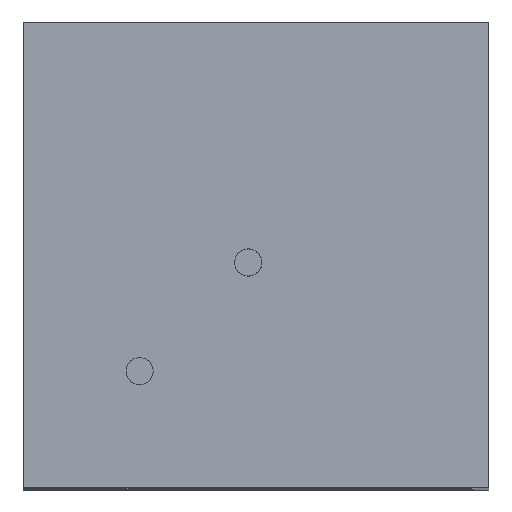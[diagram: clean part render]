
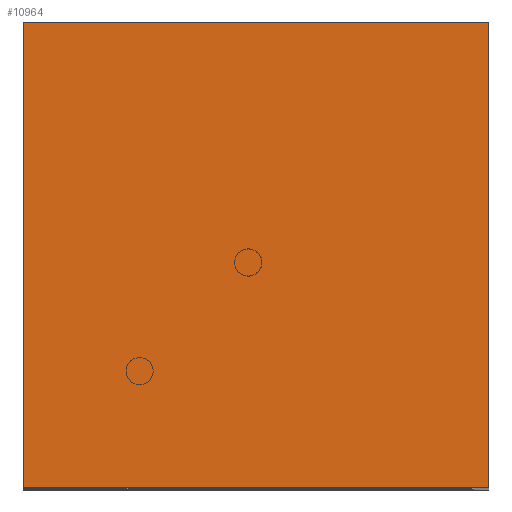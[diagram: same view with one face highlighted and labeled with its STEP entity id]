
A CAD part, top view. The second image highlights one B-rep face of the part: STEP entity #10964.
In plain terms, the highlighted planar face has unit normal (0, 0, 1).
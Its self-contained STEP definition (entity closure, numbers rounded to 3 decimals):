
#429=ORIENTED_EDGE('',*,*,#3459,.T.);
#430=ORIENTED_EDGE('',*,*,#3463,.T.);
#431=ORIENTED_EDGE('',*,*,#3466,.T.);
#432=ORIENTED_EDGE('',*,*,#3468,.T.);
#3459=EDGE_CURVE('',#4988,#4987,#6067,.T.);
#3463=EDGE_CURVE('',#4987,#4990,#6071,.T.);
#3466=EDGE_CURVE('',#4990,#4992,#6074,.T.);
#3468=EDGE_CURVE('',#4992,#4988,#6076,.T.);
#4987=VERTEX_POINT('',#16187);
#4988=VERTEX_POINT('',#16189);
#4990=VERTEX_POINT('',#16195);
#4992=VERTEX_POINT('',#16201);
#6067=LINE('',#16188,#7385);
#6071=LINE('',#16196,#7389);
#6074=LINE('',#16202,#7392);
#6076=LINE('',#16205,#7394);
#7385=VECTOR('',#13057,1000.);
#7389=VECTOR('',#13063,1000.);
#7392=VECTOR('',#13068,1000.);
#7394=VECTOR('',#13072,1000.);
#8701=EDGE_LOOP('',(#429,#430,#431,#432));
#9567=FACE_BOUND('',#8701,.T.);
#10427=PLANE('',#12102);
#10964=ADVANCED_FACE('',(#9567),#10427,.T.);
#12102=AXIS2_PLACEMENT_3D('',#16206,#13073,#13074);
#13057=DIRECTION('',(-1.,0.,0.));
#13063=DIRECTION('',(0.,-1.,0.));
#13068=DIRECTION('',(1.,0.,0.));
#13072=DIRECTION('',(0.,1.,0.));
#13073=DIRECTION('',(0.,0.,1.));
#13074=DIRECTION('',(1.,0.,0.));
#16187=CARTESIAN_POINT('',(0.,600.,19.));
#16188=CARTESIAN_POINT('',(600.,600.,19.));
#16189=CARTESIAN_POINT('',(600.,600.,19.));
#16195=CARTESIAN_POINT('',(0.,0.,19.));
#16196=CARTESIAN_POINT('',(0.,600.,19.));
#16201=CARTESIAN_POINT('',(600.,0.,19.));
#16202=CARTESIAN_POINT('',(0.,0.,19.));
#16205=CARTESIAN_POINT('',(600.,0.,19.));
#16206=CARTESIAN_POINT('',(0.,0.,19.));
